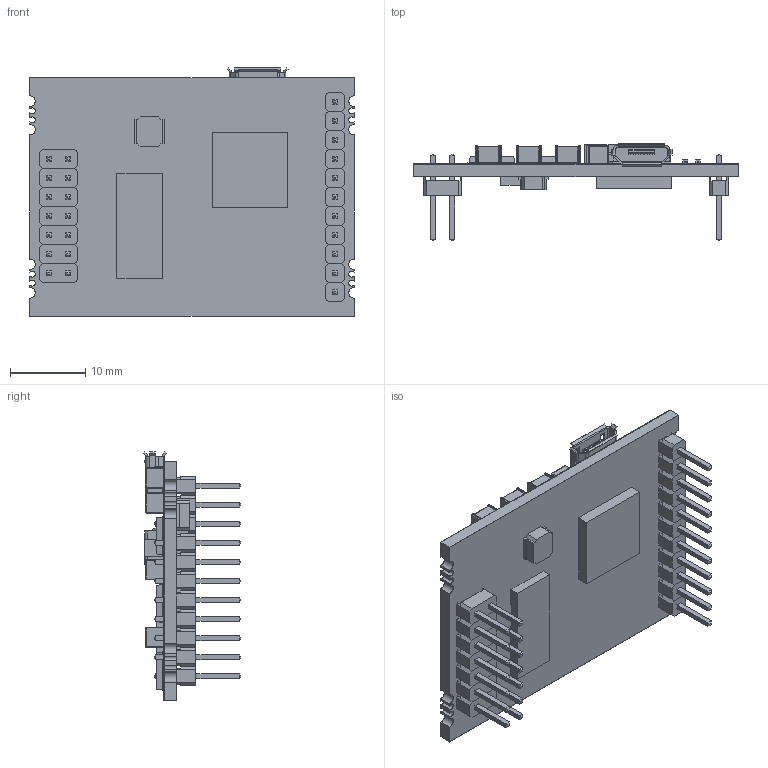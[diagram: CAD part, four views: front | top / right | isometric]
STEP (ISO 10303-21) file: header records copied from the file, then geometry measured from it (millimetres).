
FILE_DESCRIPTION((''),'2;1');
FILE_NAME('ESCON_50-4_MODULE_EC-S_ASM','2013-11-13T',('mmagmma'),(''),'PRO/ENGINEER BY PARAMETRIC TECHNOLOGY CORPORATION, 2013130','PRO/ENGINEER BY PARAMETRIC TECHNOLOGY CORPORATION, 2013130','');
FILE_SCHEMA(('CONFIG_CONTROL_DESIGN'));
Products named in the file (24): ESCON_50-4_MODULE_EC-S_PCB; CAP_C3225; USB_MICRO; MOSFET_TDSON-8; IC_7X7X1; DROSSEL_4X4X1-8; IC_PDSO_G56; IC_LQFP64-10X10; ESCON_50-4_MODULE_EC-S_SITO; ESCON_50-4_MODULE_EC-S_SIBO; STIFTLEISTE_2X1_K; STIFTLEISTE_STIFT; STIFTLEISTE_2X1_ASM; STIFTLEISTE_1X1_K; STIFTLEISTE_1X1_ASM; LED_BASE; LED_GREEN; LED_0603_GREEN_ASM; LED_RED; LED_0603_RED_ASM; POTI_SMD_1; POTI_SMD_KNOPF; POTI_SMD_ASM; ESCON_50-4_MODULE_EC-S_ASM
Assembly tree (56 placements, depth 3):
  ESCON_50-4_MODULE_EC-S_ASM
    ESCON_50-4_MODULE_EC-S_PCB
    CAP_C3225  x10
    USB_MICRO
    MOSFET_TDSON-8  x6
    IC_7X7X1
    DROSSEL_4X4X1-8
    IC_PDSO_G56
    IC_LQFP64-10X10
    ESCON_50-4_MODULE_EC-S_SITO
    ESCON_50-4_MODULE_EC-S_SIBO
    STIFTLEISTE_2X1_ASM  x7
      STIFTLEISTE_2X1_K
      STIFTLEISTE_STIFT
    STIFTLEISTE_1X1_ASM  x11
      STIFTLEISTE_1X1_K
      STIFTLEISTE_STIFT
    LED_0603_GREEN_ASM
      LED_BASE
      LED_GREEN
    LED_0603_RED_ASM
      LED_BASE
      LED_RED
    POTI_SMD_ASM
      POTI_SMD_1
      POTI_SMD_KNOPF
Bounding box: 43.18 x 13 x 33.08 mm (x, y, z)
Volume: 3522.3 mm3; surface area: 11988.3 mm2
Topology: 93 solids, 93 shells, 4210 faces, 11114 edges, 7144 vertices
Faces by surface type: plane 3300, cylinder 742, sphere 88, bspline 80
Entity records: 89500 total; most frequent: CARTESIAN_POINT 16860, ORIENTED_EDGE 15412, DIRECTION 14082, EDGE_CURVE 7706, VECTOR 6870, LINE 6870, VERTEX_POINT 5104, AXIS2_PLACEMENT_3D 3606
